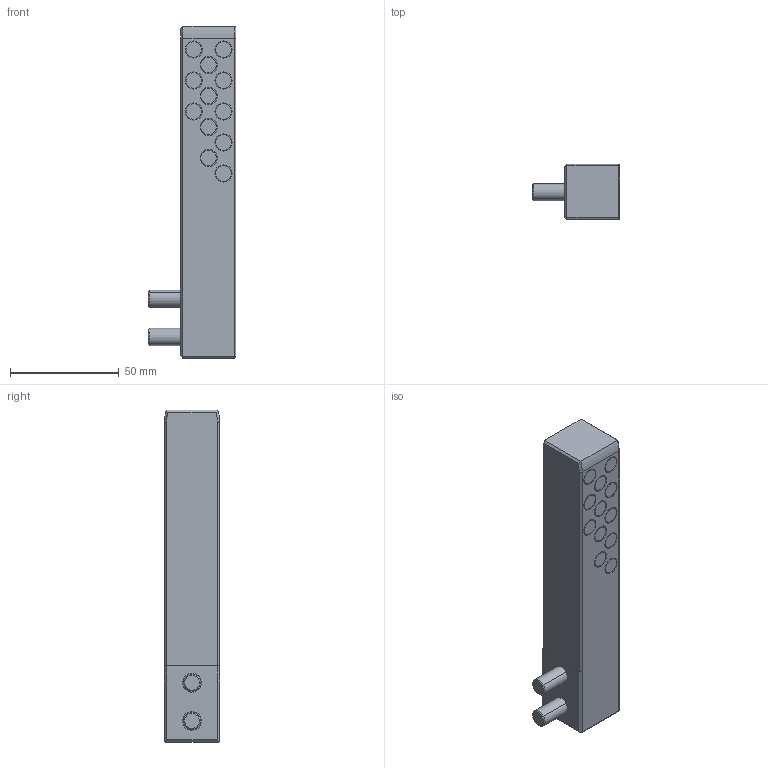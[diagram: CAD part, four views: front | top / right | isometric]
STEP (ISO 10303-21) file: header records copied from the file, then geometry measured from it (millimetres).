
FILE_DESCRIPTION (( 'STEP AP214' ), '1' );
FILE_NAME ('BLB100L6.step', '2018-04-20T15:11:06', ( '' ), ( '' ), 'SwSTEP 2.0', 'SolidWorks 2015', '' );
FILE_SCHEMA (( 'AUTOMOTIVE_DESIGN' ));
Length unit declared in the file: inch
Products named in the file (3): BLB100L6; 5-16-18x125 SHCS
Assembly tree (3 placements, depth 2):
  BLB100L6
    BLB100L6
    5-16-18x125 SHCS  x2
Bounding box: 40.13 x 25.4 x 152.4 mm (x, y, z)
Volume: 98041.3 mm3; surface area: 20860.5 mm2
Topology: 3 solids, 3 shells, 230 faces, 478 edges, 308 vertices
Faces by surface type: cylinder 120, plane 96, torus 8, cone 6
Entity records: 5708 total; most frequent: DIRECTION 1084, CARTESIAN_POINT 950, ORIENTED_EDGE 856, AXIS2_PLACEMENT_3D 452, EDGE_CURVE 428, VERTEX_POINT 278, EDGE_LOOP 262, CIRCLE 240
